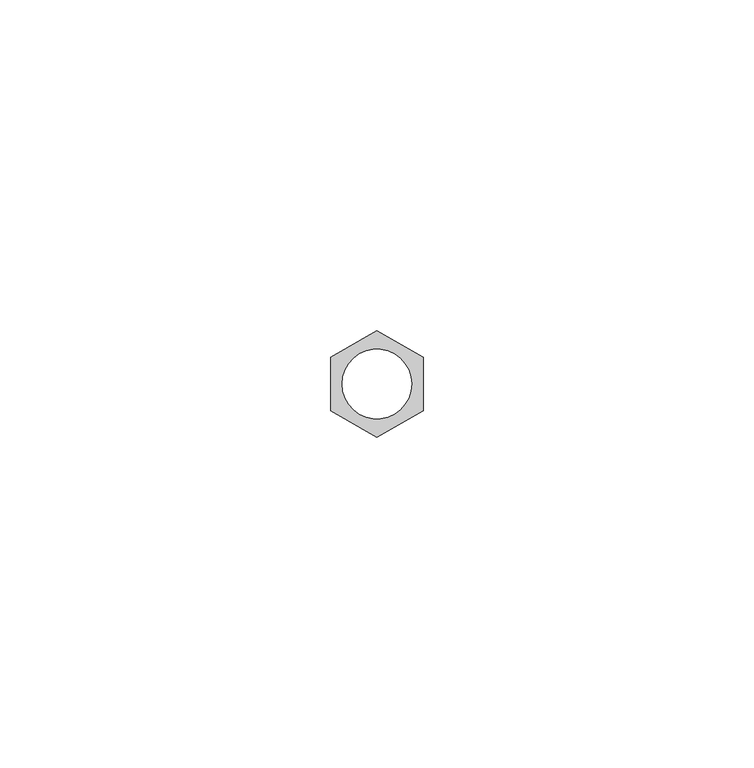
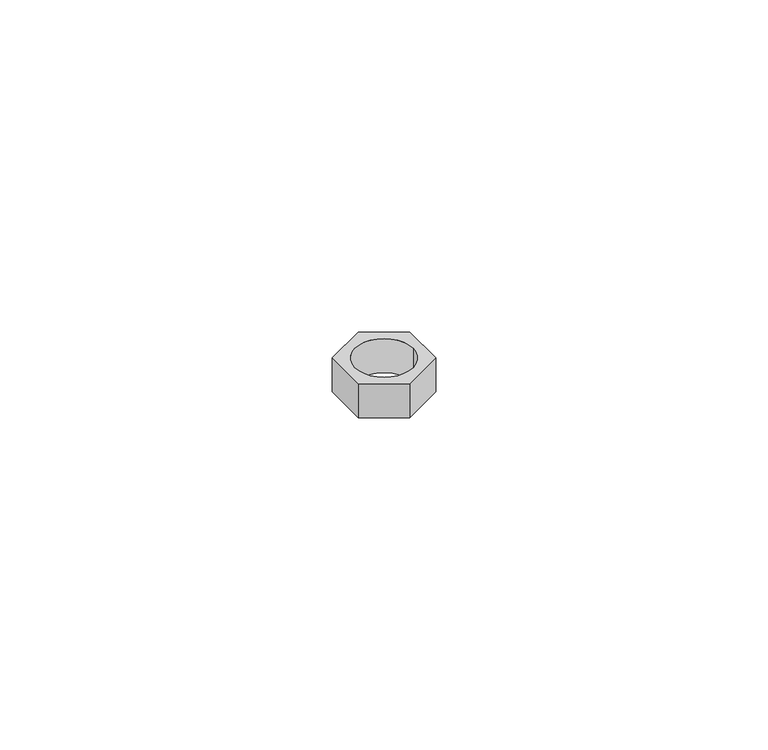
"""IFC4 building model written with IfcOpenShell, lengths in millimetres: cable carrier fitting geometry, x. Porca Sextavada Eletrica : Porca sextavada Eletrica."""

from ifc_helpers import new_model, si_unit, point, origin, origin_with_axes, origin_2d, place, context, project, spatial, polyline, circle_curve, trimmed, segment, composite_curve, outline, extrude, source, transform, mapped, element, save


def cable_carrier_fitting_557589b3(model_context):
    return source(origin(), model_context, "Body", "SweptSolid", [
        extrude(outline(polyline([(-7.0, 4.0414519), (0.0, 8.0829038), (7.0, 4.0414519), (7.0, -4.0414519), (0.0, -8.0829038), (-7.0, -4.0414519), (-7.0, 4.0414519)]), holes=[composite_curve([segment(trimmed(circle_curve(origin_2d(), 5.25), [point((-5.25, 0.0))], [point((5.25, 0.0))], True, "CARTESIAN"), True, "CONTINUOUS"), segment(trimmed(circle_curve(origin_2d(), 5.25), [point((5.25, 0.0))], [point((-5.25, 0.0))], True, "CARTESIAN"), True, "CONTINUOUS")], self_intersect=False)]), origin_with_axes(), (0.0, 0.0, 1.0), 6.5),
    ])


if __name__ == "__main__":
    model = new_model("IFC4")
    model_context = context("Model", 3, world=origin())
    ifc_project = project(units=[si_unit("LENGTHUNIT", "METRE", prefix="MILLI")], contexts=[model_context])
    site = spatial("IfcSite", under=ifc_project)
    building = spatial("IfcBuilding", under=site)
    placement = place(None, origin())
    cable_carrier_fitting_shape = cable_carrier_fitting_557589b3(model_context)
    element("IfcCableCarrierFitting", 1, ObjectType="x. Porca Sextavada Eletrica : Porca sextavada Eletrica", at=placement, inside=building, context=model_context, shape_type="MappedRepresentation", body=[
        mapped(cable_carrier_fitting_shape, transform((0.0, 0.0, 0.0), x_axis=(1.0, 0.0, 0.0), y_axis=(0.0, 1.0, 0.0), z_axis=(0.0, 0.0, 1.0))),
    ])
    save(model, "model.ifc")
